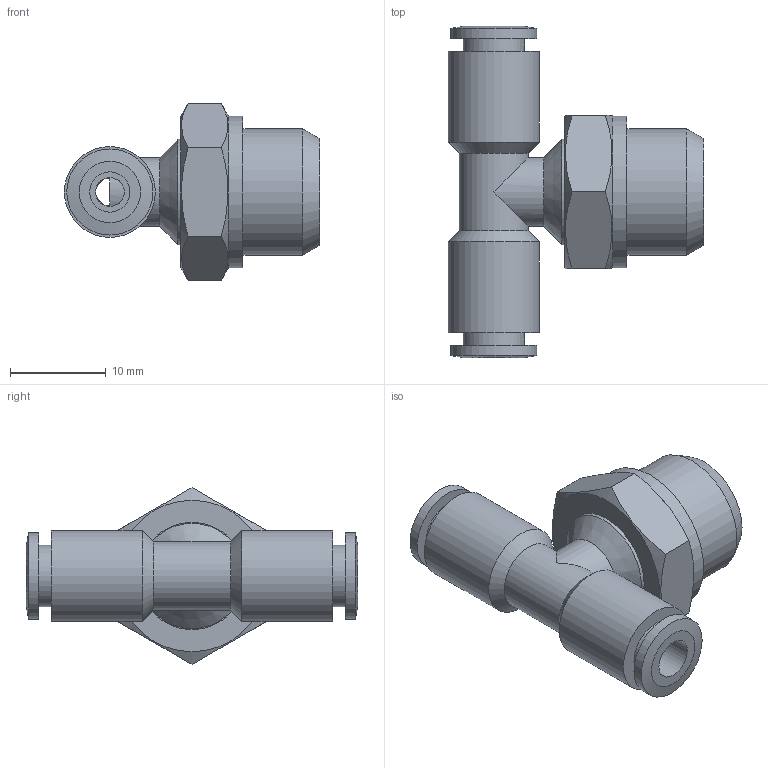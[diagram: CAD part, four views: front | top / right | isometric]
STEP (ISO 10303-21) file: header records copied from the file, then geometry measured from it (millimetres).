
FILE_DESCRIPTION((''),'2;1');
FILE_NAME('C:\Documents and Settings\rivolro1\Documenti\copia di Raccordi\PLASTICA\T20XXXX\T200414.stp','2007-10-31T15:26:17',('Rivolro1'),(''),'Autodesk Inventor 2008','Autodesk Inventor 2008','');
FILE_SCHEMA(('AUTOMOTIVE_DESIGN { 1 0 10303 214 1 1 1 1 }'));
Length unit declared in the file: millimetre
Products named in the file (1): T200414
Bounding box: 26.65 x 34.6 x 18.48 mm (x, y, z)
Volume: 4183.6 mm3; surface area: 3029.8 mm2
Topology: 1 solids, 1 shells, 46 faces, 94 edges, 60 vertices
Faces by surface type: plane 18, cylinder 15, cone 8, bspline 5
Full cylindrical faces by diameter (mm): 3 x1, 6.4 x2, 7.2 x2, 9 x2, 9.5 x2, 11 x1, 11.2 x1, 13.2 x1, 15.8 x1
Entity records: 1217 total; most frequent: CARTESIAN_POINT 300, DIRECTION 174, ORIENTED_EDGE 128, EDGE_LOOP 84, AXIS2_PLACEMENT_3D 82, EDGE_CURVE 64, VERTEX_POINT 54, FACE_OUTER_BOUND 46
